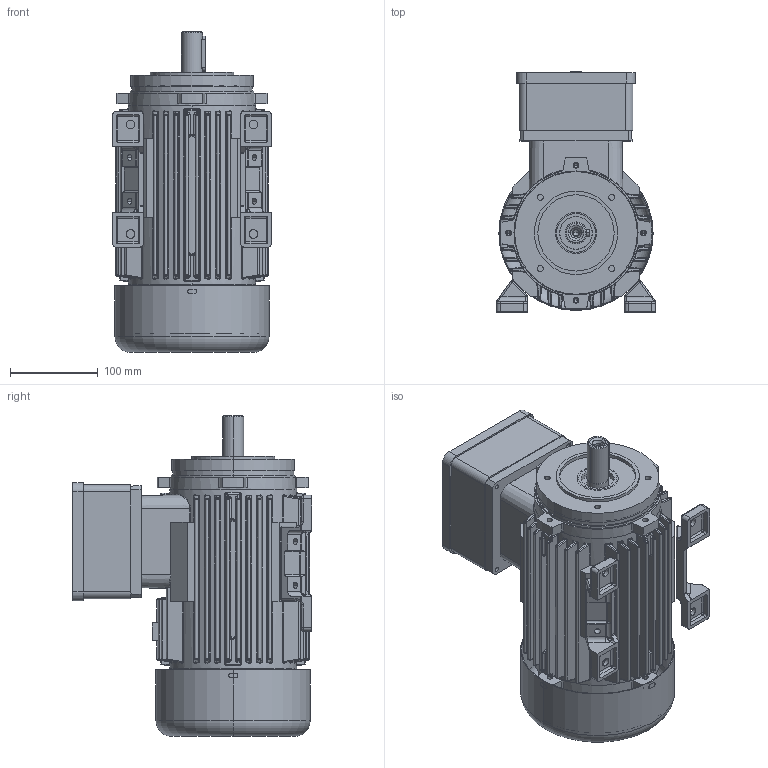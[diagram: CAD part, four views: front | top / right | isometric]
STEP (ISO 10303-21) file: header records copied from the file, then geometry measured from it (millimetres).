
FILE_DESCRIPTION (( 'STEP AP214' ), '1' );
FILE_NAME ('20.18453-F 7AT 90 B34_small Exde STANDK.STEP', '2018-07-19T12:50:33', ( '' ), ( '' ), 'SwSTEP 2.0', 'SolidWorks 2018', '' );
FILE_SCHEMA (( 'AUTOMOTIVE_DESIGN' ));
Length unit declared in the file: millimetre
Products named in the file (1): 20.18453-F 7AT 90 B34_small Exde STANDK
Bounding box: 181.17 x 273.79 x 366 mm (x, y, z)
Volume: 2916745.7 mm3; surface area: 922843.7 mm2
Topology: 14 solids, 14 shells, 2954 faces, 7181 edges, 4290 vertices
Faces by surface type: plane 1102, cylinder 920, bspline 647, torus 131, cone 100, sphere 54
Entity records: 140751 total; most frequent: CARTESIAN_POINT 47323, ORIENTED_EDGE 13954, DIRECTION 12119, EDGE_CURVE 6977, AXIS2_PLACEMENT_3D 4363, VERTEX_POINT 4288, VECTOR 3393, LINE 3393
